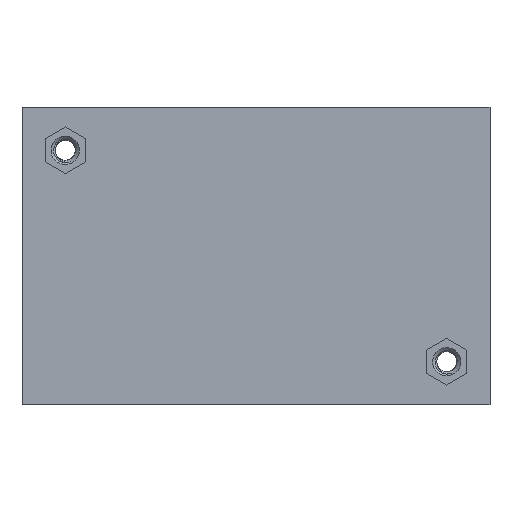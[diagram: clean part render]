
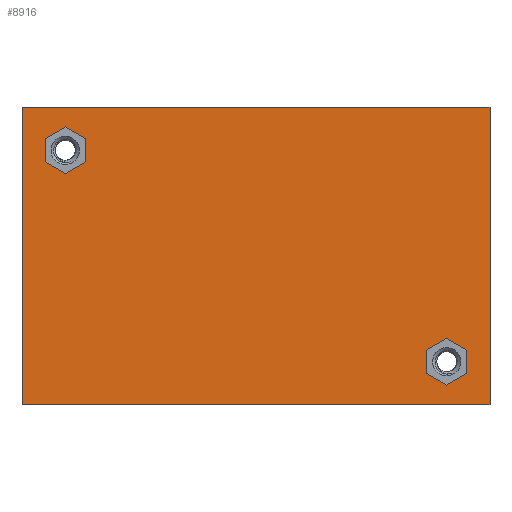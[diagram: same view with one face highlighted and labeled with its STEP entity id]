
A CAD part, front view. The second image highlights one B-rep face of the part: STEP entity #8916.
In plain terms, the highlighted planar face has unit normal (0, -1, 0).
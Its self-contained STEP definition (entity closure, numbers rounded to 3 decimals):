
#87 = CARTESIAN_POINT ( 'NONE',  ( 26.1, -1.2, -14.523 ) ) ;
#287 = ORIENTED_EDGE ( 'NONE', *, *, #5406, .T. ) ;
#632 = VECTOR ( 'NONE', #11154, 1000. ) ;
#738 = CARTESIAN_POINT ( 'NONE',  ( 26.1, -1.2, -11.637 ) ) ;
#1338 = LINE ( 'NONE', #11453, #1618 ) ;
#1537 = CARTESIAN_POINT ( 'NONE',  ( 28.95, -1.2, -18.4 ) ) ;
#1607 = CARTESIAN_POINT ( 'NONE',  ( 26.1, -1.2, -11.637 ) ) ;
#1618 = VECTOR ( 'NONE', #25398, 1000. ) ;
#1947 = CARTESIAN_POINT ( 'NONE',  ( -26.1, -1.2, 14.523 ) ) ;
#1997 = DIRECTION ( 'NONE',  ( 0., 0., 1. ) ) ;
#2142 = LINE ( 'NONE', #8585, #18243 ) ;
#2448 = VERTEX_POINT ( 'NONE', #5243 ) ;
#2564 = DIRECTION ( 'NONE',  ( 0.866, 0., 0.5 ) ) ;
#2691 = FACE_BOUND ( 'NONE', #20557, .T. ) ;
#2744 = VECTOR ( 'NONE', #15300, 1000. ) ;
#2816 = DIRECTION ( 'NONE',  ( 0., 0., 1. ) ) ;
#3018 = LINE ( 'NONE', #18674, #17939 ) ;
#3062 = CARTESIAN_POINT ( 'NONE',  ( 28.95, -1.2, 18.4 ) ) ;
#3210 = EDGE_LOOP ( 'NONE', ( #3863, #4304, #12077, #16689, #19654, #11314 ) ) ;
#3444 = CARTESIAN_POINT ( 'NONE',  ( -28.95, -1.2, 18.4 ) ) ;
#3548 = DIRECTION ( 'NONE',  ( 0.866, 0., 0.5 ) ) ;
#3742 = CARTESIAN_POINT ( 'NONE',  ( -21.1, -1.2, 14.523 ) ) ;
#3863 = ORIENTED_EDGE ( 'NONE', *, *, #8037, .T. ) ;
#4001 = EDGE_CURVE ( 'NONE', #11631, #6545, #5296, .T. ) ;
#4046 = VERTEX_POINT ( 'NONE', #7265 ) ;
#4131 = CARTESIAN_POINT ( 'NONE',  ( 28.95, -1.2, 18.4 ) ) ;
#4304 = ORIENTED_EDGE ( 'NONE', *, *, #22383, .T. ) ;
#4461 = EDGE_CURVE ( 'NONE', #19280, #4692, #7236, .T. ) ;
#4673 = DIRECTION ( 'NONE',  ( 0., 0., -1. ) ) ;
#4692 = VERTEX_POINT ( 'NONE', #12754 ) ;
#4716 = EDGE_CURVE ( 'NONE', #21447, #15136, #3018, .T. ) ;
#4916 = CARTESIAN_POINT ( 'NONE',  ( -26.1, -1.2, 14.523 ) ) ;
#5073 = VECTOR ( 'NONE', #12101, 1000. ) ;
#5243 = CARTESIAN_POINT ( 'NONE',  ( -23.6, -1.2, 15.967 ) ) ;
#5248 = ORIENTED_EDGE ( 'NONE', *, *, #18275, .T. ) ;
#5296 = LINE ( 'NONE', #12943, #12614 ) ;
#5396 = VECTOR ( 'NONE', #2564, 1000. ) ;
#5406 = EDGE_CURVE ( 'NONE', #18713, #12011, #2142, .T. ) ;
#5426 = LINE ( 'NONE', #21601, #2744 ) ;
#5957 = EDGE_LOOP ( 'NONE', ( #287, #13204, #23991, #7096 ) ) ;
#6246 = CARTESIAN_POINT ( 'NONE',  ( -21.1, -1.2, 11.637 ) ) ;
#6494 = CARTESIAN_POINT ( 'NONE',  ( -23.6, -1.2, 10.193 ) ) ;
#6545 = VERTEX_POINT ( 'NONE', #16165 ) ;
#6678 = EDGE_CURVE ( 'NONE', #4692, #7426, #11053, .T. ) ;
#6920 = VECTOR ( 'NONE', #25115, 1000. ) ;
#7096 = ORIENTED_EDGE ( 'NONE', *, *, #7254, .T. ) ;
#7236 = LINE ( 'NONE', #13560, #25063 ) ;
#7254 = EDGE_CURVE ( 'NONE', #4046, #18713, #19546, .T. ) ;
#7265 = CARTESIAN_POINT ( 'NONE',  ( -28.95, -1.2, -18.4 ) ) ;
#7426 = VERTEX_POINT ( 'NONE', #738 ) ;
#7446 = CARTESIAN_POINT ( 'NONE',  ( 26.1, -1.2, -14.523 ) ) ;
#7544 = VERTEX_POINT ( 'NONE', #1947 ) ;
#7761 = LINE ( 'NONE', #1607, #15053 ) ;
#7888 = LINE ( 'NONE', #8143, #5073 ) ;
#7919 = VECTOR ( 'NONE', #21791, 1000. ) ;
#8037 = EDGE_CURVE ( 'NONE', #16184, #7544, #5426, .T. ) ;
#8143 = CARTESIAN_POINT ( 'NONE',  ( 28.95, -1.2, 18.4 ) ) ;
#8476 = LINE ( 'NONE', #4916, #5396 ) ;
#8585 = CARTESIAN_POINT ( 'NONE',  ( 28.95, -1.2, -18.4 ) ) ;
#8916 = ADVANCED_FACE ( 'NONE', ( #2691, #10717, #16096 ), #24127, .T. ) ;
#9623 = DIRECTION ( 'NONE',  ( 0., 0., -1. ) ) ;
#9890 = CARTESIAN_POINT ( 'NONE',  ( 21.1, -1.2, -14.523 ) ) ;
#10078 = CARTESIAN_POINT ( 'NONE',  ( -23.6, -1.2, 10.193 ) ) ;
#10398 = AXIS2_PLACEMENT_3D ( 'NONE', #4131, #12158, #2816 ) ;
#10717 = FACE_OUTER_BOUND ( 'NONE', #5957, .T. ) ;
#10849 = DIRECTION ( 'NONE',  ( -0.866, 0., 0.5 ) ) ;
#11053 = LINE ( 'NONE', #19068, #6920 ) ;
#11154 = DIRECTION ( 'NONE',  ( 1., 0., 0. ) ) ;
#11314 = ORIENTED_EDGE ( 'NONE', *, *, #22426, .T. ) ;
#11417 = LINE ( 'NONE', #7446, #7919 ) ;
#11453 = CARTESIAN_POINT ( 'NONE',  ( -23.6, -1.2, 15.967 ) ) ;
#11631 = VERTEX_POINT ( 'NONE', #22138 ) ;
#11707 = ORIENTED_EDGE ( 'NONE', *, *, #4461, .T. ) ;
#12011 = VERTEX_POINT ( 'NONE', #3062 ) ;
#12077 = ORIENTED_EDGE ( 'NONE', *, *, #21778, .T. ) ;
#12101 = DIRECTION ( 'NONE',  ( -1., 0., 0. ) ) ;
#12116 = VECTOR ( 'NONE', #25213, 1000. ) ;
#12158 = DIRECTION ( 'NONE',  ( 0., -1., 0. ) ) ;
#12173 = EDGE_CURVE ( 'NONE', #7426, #15104, #7761, .T. ) ;
#12614 = VECTOR ( 'NONE', #13076, 1000. ) ;
#12754 = CARTESIAN_POINT ( 'NONE',  ( 23.6, -1.2, -10.193 ) ) ;
#12816 = LINE ( 'NONE', #6494, #18852 ) ;
#12943 = CARTESIAN_POINT ( 'NONE',  ( 23.6, -1.2, -15.967 ) ) ;
#13000 = VECTOR ( 'NONE', #1997, 1000. ) ;
#13076 = DIRECTION ( 'NONE',  ( -0.866, 0., 0.5 ) ) ;
#13140 = DIRECTION ( 'NONE',  ( -0.866, 0., -0.5 ) ) ;
#13204 = ORIENTED_EDGE ( 'NONE', *, *, #14326, .T. ) ;
#13560 = CARTESIAN_POINT ( 'NONE',  ( 21.1, -1.2, -11.637 ) ) ;
#13738 = VERTEX_POINT ( 'NONE', #25727 ) ;
#14140 = EDGE_CURVE ( 'NONE', #25288, #4046, #15052, .T. ) ;
#14326 = EDGE_CURVE ( 'NONE', #12011, #25288, #7888, .T. ) ;
#15052 = LINE ( 'NONE', #23085, #22310 ) ;
#15053 = VECTOR ( 'NONE', #9623, 1000. ) ;
#15104 = VERTEX_POINT ( 'NONE', #87 ) ;
#15136 = VERTEX_POINT ( 'NONE', #10078 ) ;
#15300 = DIRECTION ( 'NONE',  ( 0., 0., 1. ) ) ;
#15402 = CARTESIAN_POINT ( 'NONE',  ( 21.1, -1.2, -11.637 ) ) ;
#16096 = FACE_BOUND ( 'NONE', #3210, .T. ) ;
#16165 = CARTESIAN_POINT ( 'NONE',  ( 21.1, -1.2, -14.523 ) ) ;
#16184 = VERTEX_POINT ( 'NONE', #18467 ) ;
#16606 = DIRECTION ( 'NONE',  ( 0., 0., 1. ) ) ;
#16689 = ORIENTED_EDGE ( 'NONE', *, *, #22150, .T. ) ;
#17939 = VECTOR ( 'NONE', #13140, 1000. ) ;
#18243 = VECTOR ( 'NONE', #16606, 1000. ) ;
#18275 = EDGE_CURVE ( 'NONE', #15104, #11631, #11417, .T. ) ;
#18467 = CARTESIAN_POINT ( 'NONE',  ( -26.1, -1.2, 11.637 ) ) ;
#18674 = CARTESIAN_POINT ( 'NONE',  ( -21.1, -1.2, 11.637 ) ) ;
#18713 = VERTEX_POINT ( 'NONE', #25331 ) ;
#18852 = VECTOR ( 'NONE', #10849, 1000. ) ;
#19068 = CARTESIAN_POINT ( 'NONE',  ( 23.6, -1.2, -10.193 ) ) ;
#19280 = VERTEX_POINT ( 'NONE', #15402 ) ;
#19546 = LINE ( 'NONE', #1537, #632 ) ;
#19654 = ORIENTED_EDGE ( 'NONE', *, *, #4716, .T. ) ;
#19661 = ORIENTED_EDGE ( 'NONE', *, *, #6678, .T. ) ;
#20557 = EDGE_LOOP ( 'NONE', ( #22247, #11707, #19661, #24635, #5248, #23333 ) ) ;
#21447 = VERTEX_POINT ( 'NONE', #6246 ) ;
#21601 = CARTESIAN_POINT ( 'NONE',  ( -26.1, -1.2, 11.637 ) ) ;
#21768 = LINE ( 'NONE', #3742, #12116 ) ;
#21778 = EDGE_CURVE ( 'NONE', #2448, #13738, #1338, .T. ) ;
#21791 = DIRECTION ( 'NONE',  ( -0.866, 0., -0.5 ) ) ;
#21992 = LINE ( 'NONE', #9890, #13000 ) ;
#22138 = CARTESIAN_POINT ( 'NONE',  ( 23.6, -1.2, -15.967 ) ) ;
#22150 = EDGE_CURVE ( 'NONE', #13738, #21447, #21768, .T. ) ;
#22247 = ORIENTED_EDGE ( 'NONE', *, *, #23787, .T. ) ;
#22310 = VECTOR ( 'NONE', #4673, 1000. ) ;
#22383 = EDGE_CURVE ( 'NONE', #7544, #2448, #8476, .T. ) ;
#22426 = EDGE_CURVE ( 'NONE', #15136, #16184, #12816, .T. ) ;
#23085 = CARTESIAN_POINT ( 'NONE',  ( -28.95, -1.2, -18.4 ) ) ;
#23333 = ORIENTED_EDGE ( 'NONE', *, *, #4001, .T. ) ;
#23787 = EDGE_CURVE ( 'NONE', #6545, #19280, #21992, .T. ) ;
#23991 = ORIENTED_EDGE ( 'NONE', *, *, #14140, .T. ) ;
#24127 = PLANE ( 'NONE',  #10398 ) ;
#24635 = ORIENTED_EDGE ( 'NONE', *, *, #12173, .T. ) ;
#25063 = VECTOR ( 'NONE', #3548, 1000. ) ;
#25115 = DIRECTION ( 'NONE',  ( 0.866, 0., -0.5 ) ) ;
#25213 = DIRECTION ( 'NONE',  ( 0., 0., -1. ) ) ;
#25288 = VERTEX_POINT ( 'NONE', #3444 ) ;
#25331 = CARTESIAN_POINT ( 'NONE',  ( 28.95, -1.2, -18.4 ) ) ;
#25398 = DIRECTION ( 'NONE',  ( 0.866, 0., -0.5 ) ) ;
#25727 = CARTESIAN_POINT ( 'NONE',  ( -21.1, -1.2, 14.523 ) ) ;
